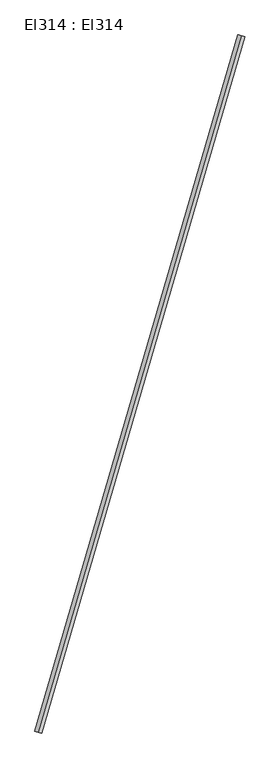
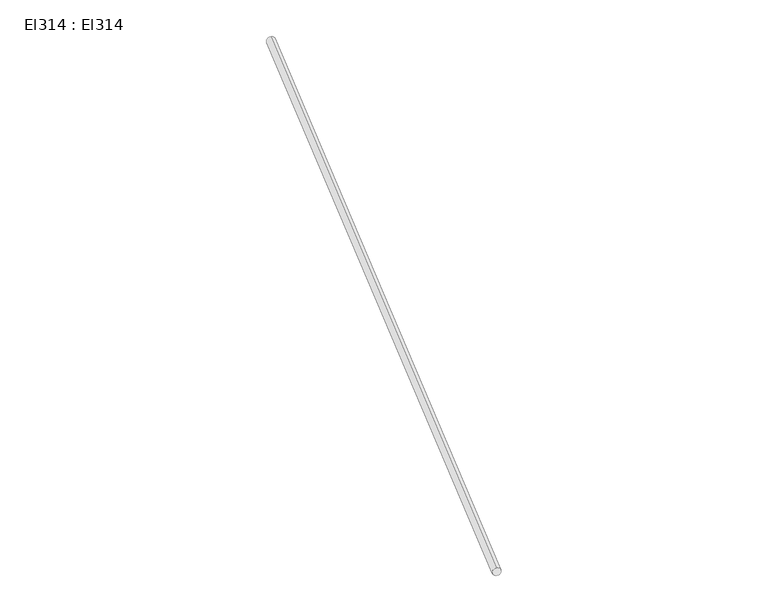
"""IFC4 building model written with IfcOpenShell, lengths in millimetres: cable carrier segment geometry, El314 : El314."""

from ifc_helpers import new_model, si_unit, point, frame, frame_2d, origin, place, context, project, spatial, circle_curve, trimmed, segment, composite_curve, outline, extrude, source, transform, mapped, element, save


def el314_el314_645519ae(model_context):
    return source(origin(), model_context, "Body", "SweptSolid", [
        extrude(outline(composite_curve([segment(trimmed(circle_curve(frame_2d((0.0, -12.0)), 12.0), [point((0.0, -24.0))], [point((0.0, 0.0))], False, "CARTESIAN"), True, "CONTINUOUS"), segment(trimmed(circle_curve(frame_2d((0.0, -12.0)), 12.0), [point((0.0, 0.0))], [point((0.0, -24.0))], False, "CARTESIAN"), True, "CONTINUOUS")], self_intersect=False)), frame((24987.317, 12413.71, 2962.0), z_axis=(0.28067588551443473, 0.9598026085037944, 0.0), x_axis=(-0.9598026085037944, 0.28067588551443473, 0.0)), (0.0, 0.0, 1.0), 2451.1),
    ])


if __name__ == "__main__":
    model = new_model("IFC4")
    model_context = context("Model", 3, world=origin())
    ifc_project = project(units=[si_unit("LENGTHUNIT", "METRE", prefix="MILLI")], contexts=[model_context])
    site = spatial("IfcSite", under=ifc_project)
    building = spatial("IfcBuilding", under=site)
    placement = place(None, origin())
    el314_el314_shape = el314_el314_645519ae(model_context)
    element("IfcCableCarrierSegment", 1, ObjectType="El314 : El314", at=placement, inside=building, context=model_context, shape_type="MappedRepresentation", body=[
        mapped(el314_el314_shape, transform((0.0, 0.0, 0.0), x_axis=(1.0, 0.0, 0.0), y_axis=(0.0, 1.0, 0.0), z_axis=(0.0, 0.0, 1.0))),
    ])
    save(model, "model.ifc")
